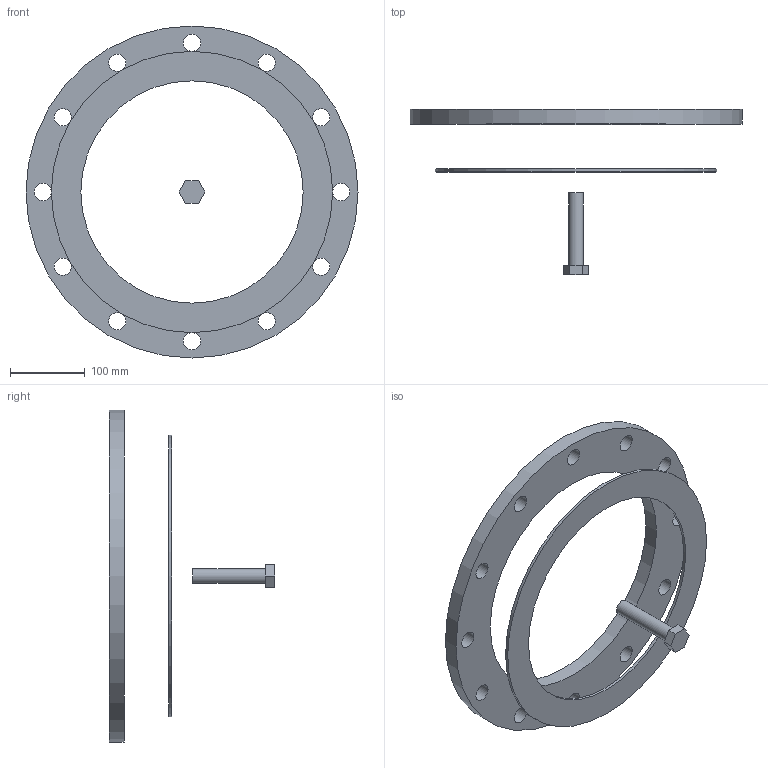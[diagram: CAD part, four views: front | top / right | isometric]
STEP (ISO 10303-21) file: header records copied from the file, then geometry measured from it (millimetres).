
FILE_DESCRIPTION( ( 'STEP AP214' ), '1' );
FILE_NAME( 'C:/Users/ilukic/Documents/ex/gebaudeentwasserung/pe/Geberit PE flange set/372746.stp', '2020-03-26T18:42:23', ( '' ), ( '' ), ' ', 'PARTsolutions', ' ' );
FILE_SCHEMA( ( 'AUTOMOTIVE_DESIGN { 1 0 10303 214 1 1 1 1 }' ) );
Length unit declared in the file: millimetre
Products named in the file (4): 372746; _372746_flange1; _372746_flange2; _372746_bolt
Assembly tree (3 placements, depth 2):
  372746
    _372746_flange1
    _372746_flange2
    _372746_bolt
Bounding box: 445 x 222 x 445 mm (x, y, z)
Volume: 1660131.4 mm3; surface area: 311546.1 mm2
Topology: 3 solids, 3 shells, 30 faces, 69 edges, 46 vertices
Faces by surface type: cylinder 17, plane 13
Full cylindrical faces by diameter (mm): 20 x1, 23 x12, 298 x1, 315 x1, 377 x1, 445 x1
Entity records: 1148 total; most frequent: DIRECTION 154, CARTESIAN_POINT 132, ORIENTED_EDGE 104, EDGE_LOOP 76, AXIS2_PLACEMENT_3D 68, EDGE_CURVE 52, FACE_OUTER_BOUND 47, VERTEX_POINT 46
